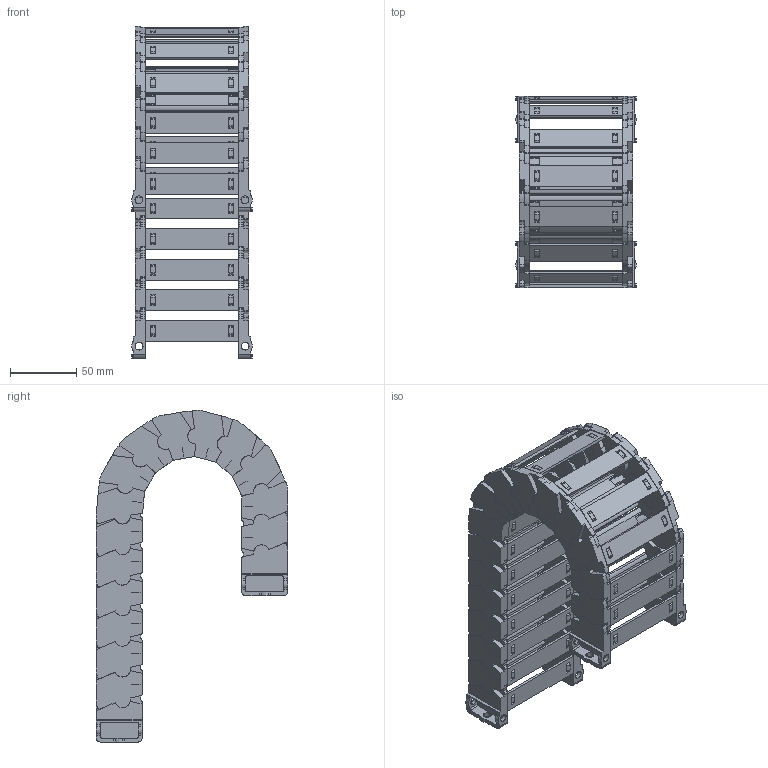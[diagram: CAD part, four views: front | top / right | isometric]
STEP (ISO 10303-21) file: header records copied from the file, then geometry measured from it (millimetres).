
FILE_DESCRIPTION((''),'2;1');
FILE_NAME('JY-25X70-R55_ASM','2022-05-07T10:11:35',('admin'),(''),'CREO PARAMETRIC BY PTC INC, 2021164','CREO PARAMETRIC BY PTC INC, 2021164','');
FILE_SCHEMA(('CONFIG_CONTROL_DESIGN','GEOMETRIC_VALIDATION_PROPERTIES_MIM'));
Length unit declared in the file: millimetre
Products named in the file (11): 25XL-L; 25-35XL-YP; 25XL-R; ASM0001_ASM; 25-LTT-A-L; 25-LTT-A-R; 25XL-LTT-A_ASM; 25-LTT-B-L; 25-LTT-B-R; 25XL-LTT-B_ASM; JY-25X70-R55_ASM
Assembly tree (29 placements, depth 3):
  JY-25X70-R55_ASM
    ASM0001_ASM  x15
      25XL-L
      25-35XL-YP
      25XL-R
    25XL-LTT-A_ASM
      25-LTT-A-L
      25-35XL-YP  x2
      25-LTT-A-R
    25XL-LTT-B_ASM
      25-LTT-B-L
      25-35XL-YP  x2
      25-LTT-B-R
Bounding box: 91.17 x 144.67 x 250.78 mm (x, y, z)
Volume: 311472.7 mm3; surface area: 232265.4 mm2
Topology: 68 solids, 83 shells, 3544 faces, 10581 edges, 7156 vertices
Faces by surface type: plane 2605, cylinder 909, cone 30
Entity records: 24023 total; most frequent: CARTESIAN_POINT 3114, DIRECTION 3009, ORIENTED_EDGE 2962, EDGE_CURVE 1483, PRESENTATION_STYLE_ASSIGNMENT 1413, STYLED_ITEM 1381, VECTOR 1053, LINE 1053
